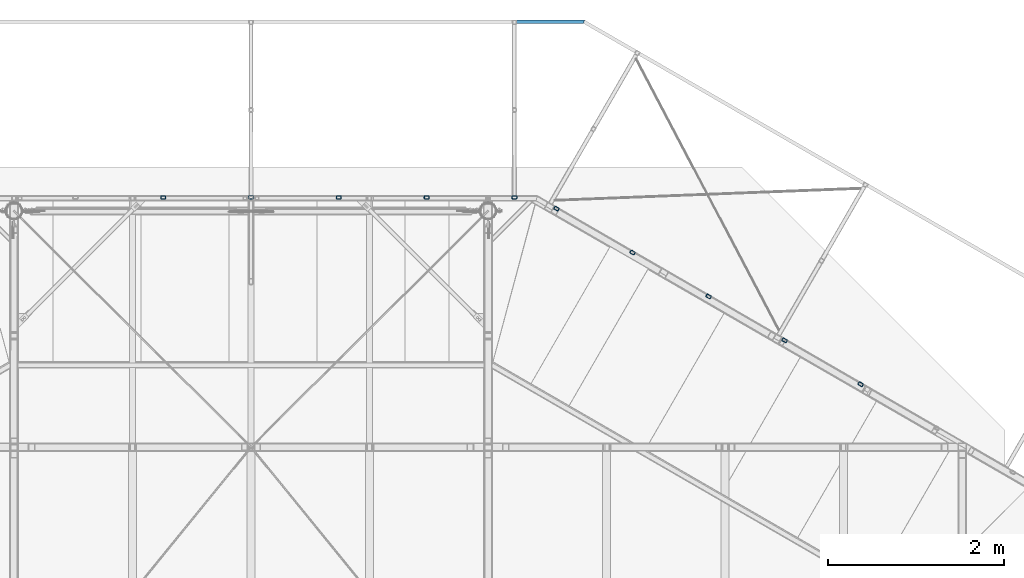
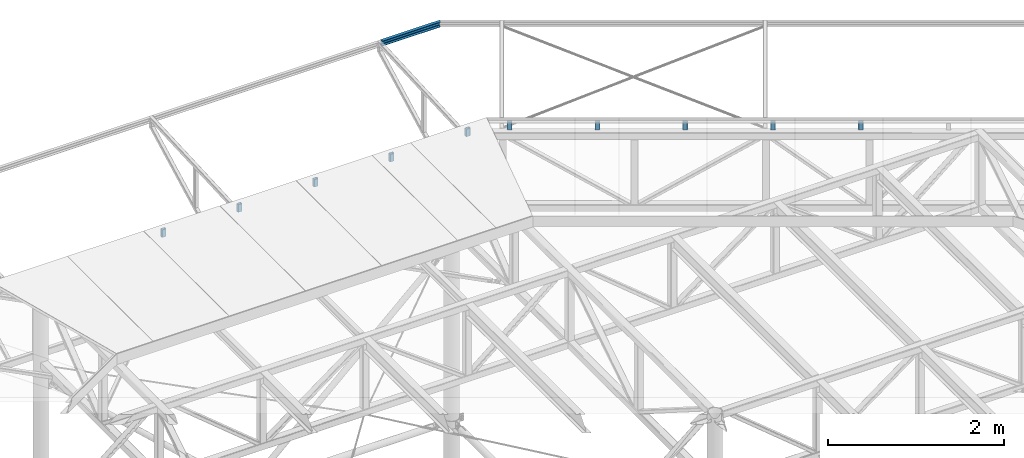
# One storey, part 29 of 132: 11 beams, 11 elements without a shape of their own.
"""IFC2X3 building model written with IfcOpenShell, lengths in millimetres."""

from ifc_helpers import new_model, si_unit, frame, origin_with_axes, origin_2d_with_axis, place, context, subcontext, project, spatial, hollow_rectangle, u_section, extrude, clip, halfspace, material, type_object, element, aggregate, save


model = new_model("IFC2X3")

# Units and contexts
model_context = context("Model", 3, precision=1e-05, world=origin_with_axes())
body_context = subcontext(model_context, "Body", "Model", "MODEL_VIEW")
ifc_project = project(units=[si_unit("LENGTHUNIT", "METRE", prefix="MILLI"), si_unit("AREAUNIT", "SQUARE_METRE"), si_unit("VOLUMEUNIT", "CUBIC_METRE"), si_unit("MASSUNIT", "GRAM", prefix="KILO"), si_unit("TIMEUNIT", "SECOND"), si_unit("PLANEANGLEUNIT", "RADIAN"), si_unit("SOLIDANGLEUNIT", "STERADIAN"), si_unit("THERMODYNAMICTEMPERATUREUNIT", "DEGREE_CELSIUS"), si_unit("LUMINOUSINTENSITYUNIT", "LUMEN")], contexts=[model_context])

# Site, building, storey
site_placement = place(None, origin_with_axes())
site = spatial("IfcSite", under=ifc_project, at=site_placement, Name="Budowa", CompositionType="ELEMENT")
building_placement = place(site_placement, origin_with_axes())
building = spatial("IfcBuilding", under=site, at=building_placement, Name="Undefined", CompositionType="ELEMENT")
storey_placement = place(building_placement, origin_with_axes())
storey = spatial("IfcBuildingStorey", under=building, at=storey_placement, Name="Undefined", CompositionType="ELEMENT", Elevation=0.0)

# Assembly, beam
assembly_1_placement = place(storey_placement, origin_with_axes())
assembly_1 = element("IfcElementAssembly", 1, at=assembly_1_placement, inside=storey, Name="Steel Assembly", AssemblyPlace="NOTDEFINED", PredefinedType="RIGID_FRAME")
ifc_material = material(Name="STEEL/S235")
beam_type_1 = type_object("IfcBeamType", Name="RHS60*40*6", PredefinedType="NOTDEFINED")
beam_1_placement = place(assembly_1_placement, frame((15604.2319653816, 24026.6157937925, 13984.0000000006), z_axis=(-0.866042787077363, 0.499969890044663, 0.0), x_axis=(0.0, 0.0, -1.0)))
beam_1 = element("IfcBeam", 2, at=beam_1_placement, type_object=beam_type_1, material=ifc_material, Name="BEAM", ObjectType="RHS60*40*6", context=body_context, shape_type="SweptSolid", body=[
    extrude(hollow_rectangle(XDim=40.0, YDim=60.0, WallThickness=6.0, InnerFilletRadius=6.0, OuterFilletRadius=12.0, at=origin_2d_with_axis()), frame((103.988921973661, 0.0, 0.0), z_axis=(-1.0, 0.0, 0.0), x_axis=(0.0, -1.0, 0.0)), (0.0, 0.0, 1.0), 103.99),
])
aggregate(assembly_1, [beam_1])

assembly_2_placement = place(storey_placement, origin_with_axes())
assembly_2 = element("IfcElementAssembly", 3, at=assembly_2_placement, inside=storey, Name="Steel Assembly", AssemblyPlace="NOTDEFINED", PredefinedType="RIGID_FRAME")
beam_2_placement = place(assembly_2_placement, frame((16470.2747524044, 23526.6459036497, 13984.0000000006), z_axis=(-0.866042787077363, 0.499969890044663, 0.0), x_axis=(0.0, 0.0, -1.0)))
beam_2 = element("IfcBeam", 4, at=beam_2_placement, type_object=beam_type_1, material=ifc_material, Name="BEAM", ObjectType="RHS60*40*6", context=body_context, shape_type="SweptSolid", body=[
    extrude(hollow_rectangle(XDim=40.0, YDim=60.0, WallThickness=6.0, InnerFilletRadius=6.0, OuterFilletRadius=12.0, at=origin_2d_with_axis()), frame((103.988921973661, 0.0, 0.0), z_axis=(-1.0, 0.0, 0.0), x_axis=(0.0, -1.0, 0.0)), (0.0, 0.0, 1.0), 103.99),
])
aggregate(assembly_2, [beam_2])

assembly_3_placement = place(storey_placement, origin_with_axes())
assembly_3 = element("IfcElementAssembly", 5, at=assembly_3_placement, inside=storey, Name="Steel Assembly", AssemblyPlace="NOTDEFINED", PredefinedType="RIGID_FRAME")
beam_3_placement = place(assembly_3_placement, frame((19068.4031135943, 22026.7362334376, 13984.0000000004), z_axis=(-0.866042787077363, 0.499969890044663, 0.0), x_axis=(0.0, 0.0, -1.0)))
beam_3 = element("IfcBeam", 6, at=beam_3_placement, type_object=beam_type_1, material=ifc_material, Name="BEAM", ObjectType="RHS60*40*6", context=body_context, shape_type="SweptSolid", body=[
    extrude(hollow_rectangle(XDim=40.0, YDim=60.0, WallThickness=6.0, InnerFilletRadius=6.0, OuterFilletRadius=12.0, at=origin_2d_with_axis()), frame((103.988921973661, 0.0, 0.0), z_axis=(-1.0, 0.0, 0.0), x_axis=(0.0, -1.0, 0.0)), (0.0, 0.0, 1.0), 103.99),
])
aggregate(assembly_3, [beam_3])

assembly_4_placement = place(storey_placement, origin_with_axes())
assembly_4 = element("IfcElementAssembly", 7, at=assembly_4_placement, inside=storey, Name="Steel Assembly", AssemblyPlace="NOTDEFINED", PredefinedType="RIGID_FRAME")
beam_4_placement = place(assembly_4_placement, frame((17336.3175394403, 23026.6760135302, 13984.0000000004), z_axis=(-0.866042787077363, 0.499969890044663, 0.0), x_axis=(0.0, 0.0, -1.0)))
beam_4 = element("IfcBeam", 8, at=beam_4_placement, type_object=beam_type_1, material=ifc_material, Name="BEAM", ObjectType="RHS60*40*6", context=body_context, shape_type="SweptSolid", body=[
    extrude(hollow_rectangle(XDim=40.0, YDim=60.0, WallThickness=6.0, InnerFilletRadius=6.0, OuterFilletRadius=12.0, at=origin_2d_with_axis()), frame((103.988921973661, 0.0, 0.0), z_axis=(-1.0, 0.0, 0.0), x_axis=(0.0, -1.0, 0.0)), (0.0, 0.0, 1.0), 103.99),
])
aggregate(assembly_4, [beam_4])

assembly_5_placement = place(storey_placement, origin_with_axes())
assembly_5 = element("IfcElementAssembly", 9, at=assembly_5_placement, inside=storey, Name="Steel Assembly", AssemblyPlace="NOTDEFINED", PredefinedType="RIGID_FRAME")
beam_5_placement = place(assembly_5_placement, frame((18202.3603264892, 22526.7061234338, 13984.0000000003), z_axis=(-0.866042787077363, 0.499969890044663, 0.0), x_axis=(0.0, 0.0, -1.0)))
beam_5 = element("IfcBeam", 10, at=beam_5_placement, type_object=beam_type_1, material=ifc_material, Name="BEAM", ObjectType="RHS60*40*6", context=body_context, shape_type="SweptSolid", body=[
    extrude(hollow_rectangle(XDim=40.0, YDim=60.0, WallThickness=6.0, InnerFilletRadius=6.0, OuterFilletRadius=12.0, at=origin_2d_with_axis()), frame((103.988921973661, 0.0, 0.0), z_axis=(-1.0, 0.0, 0.0), x_axis=(0.0, -1.0, 0.0)), (0.0, 0.0, 1.0), 103.99),
])
aggregate(assembly_5, [beam_5])

assembly_6_placement = place(storey_placement, origin_with_axes())
assembly_6 = element("IfcElementAssembly", 11, at=assembly_6_placement, inside=storey, Name="Steel Assembly", AssemblyPlace="NOTDEFINED", PredefinedType="RIGID_FRAME")
beam_6_placement = place(assembly_6_placement, frame((15124.8382365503, 24154.8999997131, 13984.0000000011), z_axis=(1.0, 0.0, 0.0), x_axis=(0.0, 0.0, -1.0)))
beam_6 = element("IfcBeam", 12, at=beam_6_placement, type_object=beam_type_1, material=ifc_material, Name="BEAM", ObjectType="RHS60*40*6", context=body_context, shape_type="SweptSolid", body=[
    extrude(hollow_rectangle(XDim=40.0, YDim=60.0, WallThickness=6.0, InnerFilletRadius=6.0, OuterFilletRadius=12.0, at=origin_2d_with_axis()), frame((103.937991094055, 0.0, 0.0), z_axis=(-1.0, 0.0, 0.0), x_axis=(0.0, -1.0, 0.0)), (0.0, 0.0, 1.0), 103.94),
])
aggregate(assembly_6, [beam_6])

assembly_7_placement = place(storey_placement, origin_with_axes())
assembly_7 = element("IfcElementAssembly", 13, at=assembly_7_placement, inside=storey, Name="Steel Assembly", AssemblyPlace="NOTDEFINED", PredefinedType="RIGID_FRAME")
beam_7_placement = place(assembly_7_placement, frame((14124.838236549, 24154.8999998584, 13984.0000000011), z_axis=(1.0, 0.0, 0.0), x_axis=(0.0, 0.0, -1.0)))
beam_7 = element("IfcBeam", 14, at=beam_7_placement, type_object=beam_type_1, material=ifc_material, Name="BEAM", ObjectType="RHS60*40*6", context=body_context, shape_type="SweptSolid", body=[
    extrude(hollow_rectangle(XDim=40.0, YDim=60.0, WallThickness=6.0, InnerFilletRadius=6.0, OuterFilletRadius=12.0, at=origin_2d_with_axis()), frame((103.937991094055, 0.0, 0.0), z_axis=(-1.0, 0.0, 0.0), x_axis=(0.0, -1.0, 0.0)), (0.0, 0.0, 1.0), 103.94),
])
aggregate(assembly_7, [beam_7])

assembly_8_placement = place(storey_placement, origin_with_axes())
assembly_8 = element("IfcElementAssembly", 15, at=assembly_8_placement, inside=storey, Name="Steel Assembly", AssemblyPlace="NOTDEFINED", PredefinedType="RIGID_FRAME")
beam_8_placement = place(assembly_8_placement, frame((13124.8382365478, 24154.8999999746, 13984.0000000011), z_axis=(1.0, 0.0, 0.0), x_axis=(0.0, 0.0, -1.0)))
beam_8 = element("IfcBeam", 16, at=beam_8_placement, type_object=beam_type_1, material=ifc_material, Name="BEAM", ObjectType="RHS60*40*6", context=body_context, shape_type="SweptSolid", body=[
    extrude(hollow_rectangle(XDim=40.0, YDim=60.0, WallThickness=6.0, InnerFilletRadius=6.0, OuterFilletRadius=12.0, at=origin_2d_with_axis()), frame((103.937991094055, 0.0, 0.0), z_axis=(-1.0, 0.0, 0.0), x_axis=(0.0, -1.0, 0.0)), (0.0, 0.0, 1.0), 103.94),
])
aggregate(assembly_8, [beam_8])

assembly_9_placement = place(storey_placement, origin_with_axes())
assembly_9 = element("IfcElementAssembly", 17, at=assembly_9_placement, inside=storey, Name="Steel Assembly", AssemblyPlace="NOTDEFINED", PredefinedType="RIGID_FRAME")
beam_9_placement = place(assembly_9_placement, frame((11124.8382365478, 24154.9000000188, 13984.0000000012), z_axis=(1.0, 0.0, 0.0), x_axis=(0.0, 0.0, -1.0)))
beam_9 = element("IfcBeam", 18, at=beam_9_placement, type_object=beam_type_1, material=ifc_material, Name="BEAM", ObjectType="RHS60*40*6", context=body_context, shape_type="SweptSolid", body=[
    extrude(hollow_rectangle(XDim=40.0, YDim=60.0, WallThickness=6.0, InnerFilletRadius=6.0, OuterFilletRadius=12.0, at=origin_2d_with_axis()), frame((103.937991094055, 0.0, 0.0), z_axis=(-1.0, 0.0, 0.0), x_axis=(0.0, -1.0, 0.0)), (0.0, 0.0, 1.0), 103.94),
])
aggregate(assembly_9, [beam_9])

assembly_10_placement = place(storey_placement, origin_with_axes())
assembly_10 = element("IfcElementAssembly", 19, at=assembly_10_placement, inside=storey, Name="Steel Assembly", AssemblyPlace="NOTDEFINED", PredefinedType="RIGID_FRAME")
beam_10_placement = place(assembly_10_placement, frame((12124.8382365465, 24154.9000000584, 13984.0000000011), z_axis=(1.0, 0.0, 0.0), x_axis=(0.0, 0.0, -1.0)))
beam_10 = element("IfcBeam", 20, at=beam_10_placement, type_object=beam_type_1, material=ifc_material, Name="BEAM", ObjectType="RHS60*40*6", context=body_context, shape_type="SweptSolid", body=[
    extrude(hollow_rectangle(XDim=40.0, YDim=60.0, WallThickness=6.0, InnerFilletRadius=6.0, OuterFilletRadius=12.0, at=origin_2d_with_axis()), frame((103.937991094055, 0.0, 0.0), z_axis=(-1.0, 0.0, 0.0), x_axis=(0.0, -1.0, 0.0)), (0.0, 0.0, 1.0), 103.94),
])
aggregate(assembly_10, [beam_10])

assembly_11_placement = place(storey_placement, origin_with_axes())
assembly_11 = element("IfcElementAssembly", 21, at=assembly_11_placement, inside=storey, Name="Steel Assembly", AssemblyPlace="NOTDEFINED", PredefinedType="RIGID_FRAME")
beam_type_2 = type_object("IfcBeamType", Name="C70*40*4", PredefinedType="NOTDEFINED")
beam_11_placement = place(assembly_11_placement, frame((16099.9999999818, 26155.0003815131, 13945.0050191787), z_axis=(0.0, 0.0, -1.0), x_axis=(-1.0, 0.0, 0.0)))
beam_11 = element("IfcBeam", 22, at=beam_11_placement, type_object=beam_type_2, material=ifc_material, Name="BEAM", ObjectType="C70*40*4", context=body_context, shape_type="Clipping", body=[
    clip(extrude(u_section(Depth=70.0, FlangeWidth=40.0, WebThickness=4.0, FlangeThickness=4.0, FilletRadius=6.0, at=origin_2d_with_axis()), frame((950.000000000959, 1.82248795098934e-14, 0.0), z_axis=(-1.0, 0.0, 0.0), x_axis=(0.0, -1.0, 0.0)), (0.0, 0.0, 1.0), 772.94), halfspace(frame((177.111983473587, 20.0000000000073, -2.95185600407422e-08), z_axis=(0.965930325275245, 0.258802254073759, 0.0), x_axis=(0.0, 0.0, -1.0)), True)),
])
aggregate(assembly_11, [beam_11])

save(model, "model.ifc")
